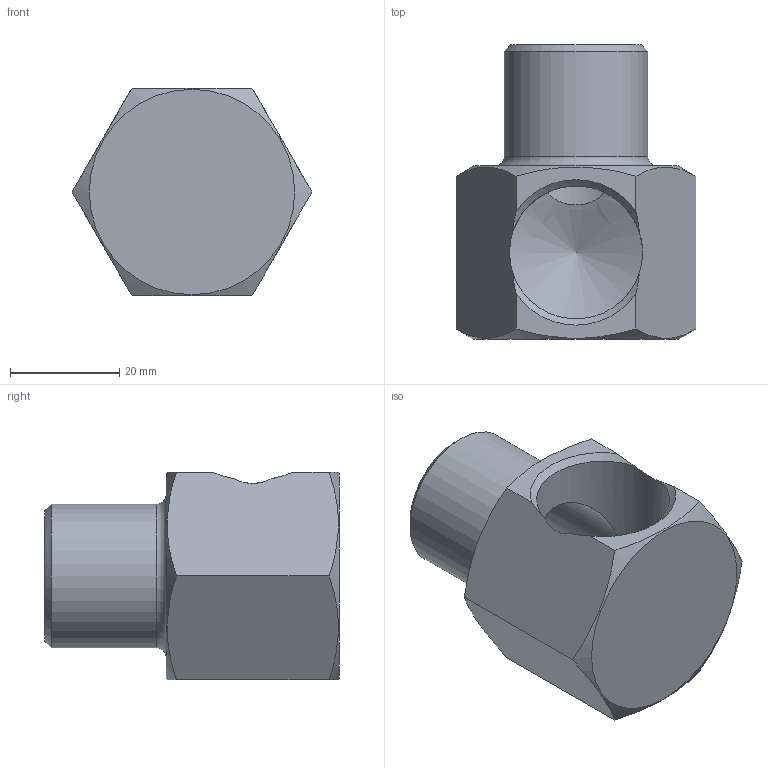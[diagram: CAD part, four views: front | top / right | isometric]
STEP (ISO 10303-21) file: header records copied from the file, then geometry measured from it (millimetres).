
FILE_DESCRIPTION(/* description */ (''),/* implementation_level */ '2;1');
FILE_NAME(/* name */ 'C:/Users/drich/Desktop/M75S-M75SB v1.step',/* time_stamp */ '2019-12-27T18:06:19-06:00',/* author */ (''),/* organization */ (''),/* preprocessor_version */ 'ST-DEVELOPER v18',/* originating_system */ 'Autodesk Translation Framework v8.12.0.6',/* authorisation */ '');
FILE_SCHEMA (('AUTOMOTIVE_DESIGN { 1 0 10303 214 3 1 1 }'));
Length unit declared in the file: inch
Products named in the file (1): M75S-M75SB
Bounding box: 43.99 x 53.98 x 38.1 mm (x, y, z)
Volume: 28880.3 mm3; surface area: 11489.5 mm2
Topology: 1 solids, 1 shells, 21 faces, 59 edges, 39 vertices
Faces by surface type: plane 10, cone 7, cylinder 3, torus 1
Full cylindrical faces by diameter (mm): 20.625 x1, 24.387 x1, 26.299 x1
Entity records: 759 total; most frequent: CARTESIAN_POINT 211, ORIENTED_EDGE 116, DIRECTION 102, EDGE_CURVE 58, AXIS2_PLACEMENT_3D 43, VERTEX_POINT 39, EDGE_LOOP 23, FACE_OUTER_BOUND 21
